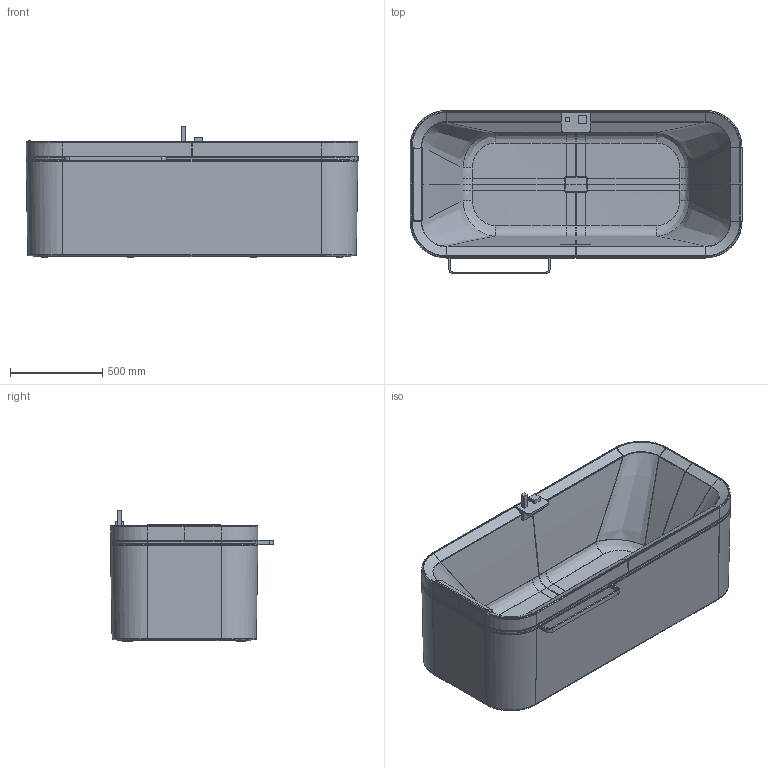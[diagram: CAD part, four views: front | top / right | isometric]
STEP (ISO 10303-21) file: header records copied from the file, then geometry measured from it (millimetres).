
FILE_DESCRIPTION(('STEP AP203'),'2;1');
FILE_NAME('DIV21808C2.stp','2017-07-25T11:05:49',(''),(''),'2016.1.120','THINKDESIGN','');
FILE_SCHEMA(('CONFIG_CONTROL_DESIGN'));
Length unit declared in the file: millimetre
Products named in the file (1): top
Bounding box: 1801.03 x 886.03 x 713 mm (x, y, z)
Volume: 17990235.8 mm3; surface area: 12622678.5 mm2
Topology: 10 solids, 10 shells, 1188 faces, 3013 edges, 1820 vertices
Faces by surface type: plane 424, cylinder 399, bspline 365
Entity records: 53364 total; most frequent: CARTESIAN_POINT 26802, ORIENTED_EDGE 6006, DIRECTION 4809, EDGE_CURVE 3003, VERTEX_POINT 1820, AXIS2_PLACEMENT_3D 1608, VECTOR 1593, LINE 1593
